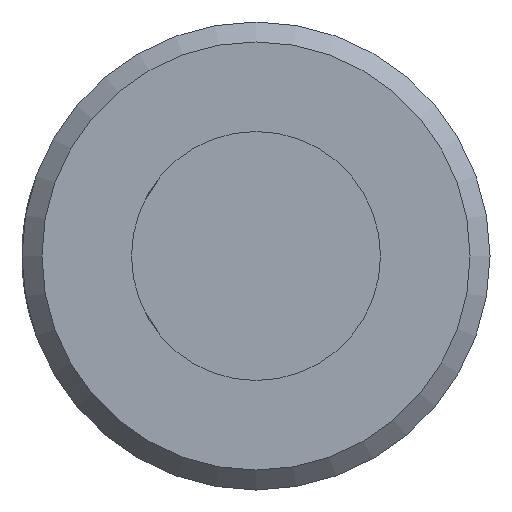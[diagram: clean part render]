
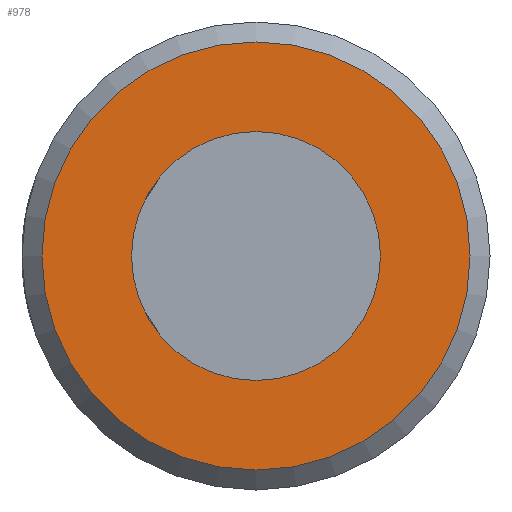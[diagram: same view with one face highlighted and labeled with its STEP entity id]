
A CAD part, left-side view. The second image highlights one B-rep face of the part: STEP entity #978.
In plain terms, the highlighted planar face has unit normal (-1, 0, 0).
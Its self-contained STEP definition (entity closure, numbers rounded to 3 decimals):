
#33=FACE_BOUND('',#165,.T.);
#58=PLANE('',#1067);
#102=FACE_OUTER_BOUND('',#164,.T.);
#164=EDGE_LOOP('',(#766));
#165=EDGE_LOOP('',(#767));
#389=CIRCLE('',#1066,21.5);
#390=CIRCLE('',#1068,12.5);
#458=VERTEX_POINT('',#2090);
#459=VERTEX_POINT('',#2094);
#568=EDGE_CURVE('',#458,#458,#389,.T.);
#569=EDGE_CURVE('',#459,#459,#390,.T.);
#766=ORIENTED_EDGE('',*,*,#568,.F.);
#767=ORIENTED_EDGE('',*,*,#569,.T.);
#978=ADVANCED_FACE('',(#102,#33),#58,.T.);
#1066=AXIS2_PLACEMENT_3D('',#2092,#1229,#1230);
#1067=AXIS2_PLACEMENT_3D('',#2093,#1231,#1232);
#1068=AXIS2_PLACEMENT_3D('',#2095,#1233,#1234);
#1229=DIRECTION('center_axis',(1.,0.,0.));
#1230=DIRECTION('ref_axis',(0.,0.,-1.));
#1231=DIRECTION('center_axis',(-1.,0.,0.));
#1232=DIRECTION('ref_axis',(0.,0.,1.));
#1233=DIRECTION('center_axis',(1.,0.,0.));
#1234=DIRECTION('ref_axis',(0.,0.,-1.));
#2090=CARTESIAN_POINT('',(0.,0.,21.5));
#2092=CARTESIAN_POINT('Origin',(0.,0.,0.));
#2093=CARTESIAN_POINT('Origin',(0.,0.,23.5));
#2094=CARTESIAN_POINT('',(0.,0.,-12.5));
#2095=CARTESIAN_POINT('Origin',(0.,0.,0.));
